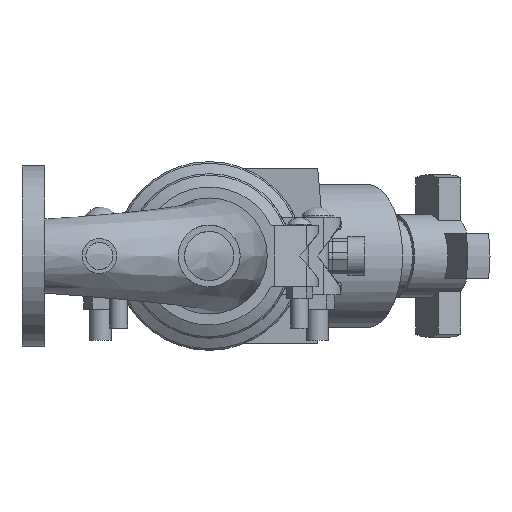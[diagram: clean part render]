
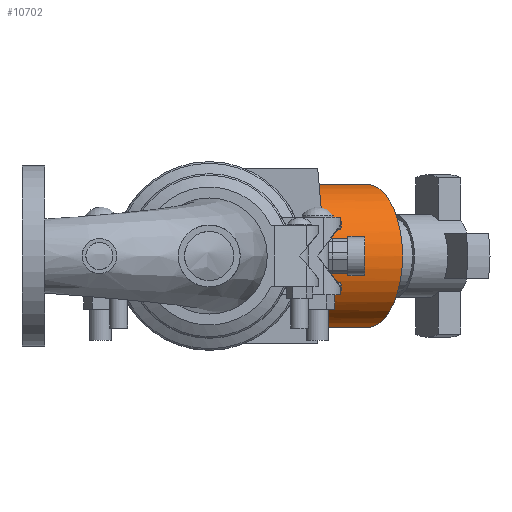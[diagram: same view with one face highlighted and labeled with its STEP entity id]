
A CAD part, front view. The second image highlights one B-rep face of the part: STEP entity #10702.
In plain terms, the highlighted cylindrical face has radius 70.65 mm (diameter 141.3 mm), a full revolution.
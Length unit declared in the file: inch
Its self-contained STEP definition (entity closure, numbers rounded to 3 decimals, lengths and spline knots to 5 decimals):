
#283=ELLIPSE('',#11773,5.563,2.7815);
#284=ELLIPSE('',#11774,3.2118,2.7815);
#285=ELLIPSE('',#11775,3.2118,2.7815);
#286=ELLIPSE('',#11776,5.563,2.7815);
#712=LINE('',#17904,#1492);
#1492=VECTOR('',#13924,2.7815);
#1996=CYLINDRICAL_SURFACE('',#11794,2.7815);
#2461=FACE_OUTER_BOUND('',#3069,.T.);
#3069=EDGE_LOOP('',(#7948,#7949,#7950,#7951,#7952,#7953,#7954,#7955));
#3630=CIRCLE('',#11718,2.7815);
#3631=CIRCLE('',#11719,2.7815);
#4397=VERTEX_POINT('',#17724);
#4398=VERTEX_POINT('',#17725);
#4448=VERTEX_POINT('',#17865);
#4449=VERTEX_POINT('',#17867);
#4450=VERTEX_POINT('',#17869);
#4451=VERTEX_POINT('',#17872);
#5629=EDGE_CURVE('',#4397,#4398,#3630,.T.);
#5630=EDGE_CURVE('',#4398,#4397,#3631,.T.);
#5698=EDGE_CURVE('',#4448,#4449,#283,.T.);
#5699=EDGE_CURVE('',#4449,#4450,#284,.T.);
#5701=EDGE_CURVE('',#4450,#4451,#285,.T.);
#5702=EDGE_CURVE('',#4451,#4448,#286,.T.);
#5716=EDGE_CURVE('',#4448,#4398,#712,.T.);
#7948=ORIENTED_EDGE('',*,*,#5702,.F.);
#7949=ORIENTED_EDGE('',*,*,#5701,.F.);
#7950=ORIENTED_EDGE('',*,*,#5699,.F.);
#7951=ORIENTED_EDGE('',*,*,#5698,.F.);
#7952=ORIENTED_EDGE('',*,*,#5716,.T.);
#7953=ORIENTED_EDGE('',*,*,#5630,.T.);
#7954=ORIENTED_EDGE('',*,*,#5629,.T.);
#7955=ORIENTED_EDGE('',*,*,#5716,.F.);
#10702=ADVANCED_FACE('',(#2461),#1996,.T.);
#11718=AXIS2_PLACEMENT_3D('',#17726,#13730,#13731);
#11719=AXIS2_PLACEMENT_3D('',#17727,#13732,#13733);
#11773=AXIS2_PLACEMENT_3D('',#17868,#13876,#13877);
#11774=AXIS2_PLACEMENT_3D('',#17870,#13878,#13879);
#11775=AXIS2_PLACEMENT_3D('',#17873,#13881,#13882);
#11776=AXIS2_PLACEMENT_3D('',#17874,#13883,#13884);
#11794=AXIS2_PLACEMENT_3D('',#17903,#13922,#13923);
#13730=DIRECTION('center_axis',(-0.5,0.866,0.));
#13731=DIRECTION('ref_axis',(-0.866,-0.5,0.));
#13732=DIRECTION('center_axis',(-0.5,0.866,0.));
#13733=DIRECTION('ref_axis',(-0.866,-0.5,0.));
#13876=DIRECTION('center_axis',(0.5,0.866,0.));
#13877=DIRECTION('ref_axis',(-0.866,0.5,0.));
#13878=DIRECTION('center_axis',(-0.866,0.5,0.));
#13879=DIRECTION('ref_axis',(-0.5,-0.866,0.));
#13881=DIRECTION('center_axis',(-0.866,0.5,0.));
#13882=DIRECTION('ref_axis',(-0.5,-0.866,0.));
#13883=DIRECTION('center_axis',(0.5,0.866,0.));
#13884=DIRECTION('ref_axis',(-0.866,0.5,0.));
#13922=DIRECTION('center_axis',(-0.5,0.866,0.));
#13923=DIRECTION('ref_axis',(-0.866,-0.5,0.));
#13924=DIRECTION('',(0.5,-0.866,0.));
#17724=CARTESIAN_POINT('',(-2.25885,-7.49146,0.));
#17725=CARTESIAN_POINT('',(2.55885,-4.70996,0.));
#17726=CARTESIAN_POINT('Origin',(0.15,-6.10071,0.));
#17727=CARTESIAN_POINT('Origin',(0.15,-6.10071,0.));
#17865=CARTESIAN_POINT('',(1.44546,-2.7815,0.));
#17867=CARTESIAN_POINT('',(-3.37224,0.,-2.7815));
#17868=CARTESIAN_POINT('Origin',(-3.37224,0.,
0.));
#17869=CARTESIAN_POINT('',(-4.97814,-2.7815,0.));
#17870=CARTESIAN_POINT('Origin',(-3.37224,0.,
0.));
#17872=CARTESIAN_POINT('',(-3.37224,0.,2.7815));
#17873=CARTESIAN_POINT('Origin',(-3.37224,0.,
0.));
#17874=CARTESIAN_POINT('Origin',(-3.37224,0.,
0.));
#17903=CARTESIAN_POINT('Origin',(0.25,-6.27391,0.));
#17904=CARTESIAN_POINT('',(2.65885,-4.88316,0.));
